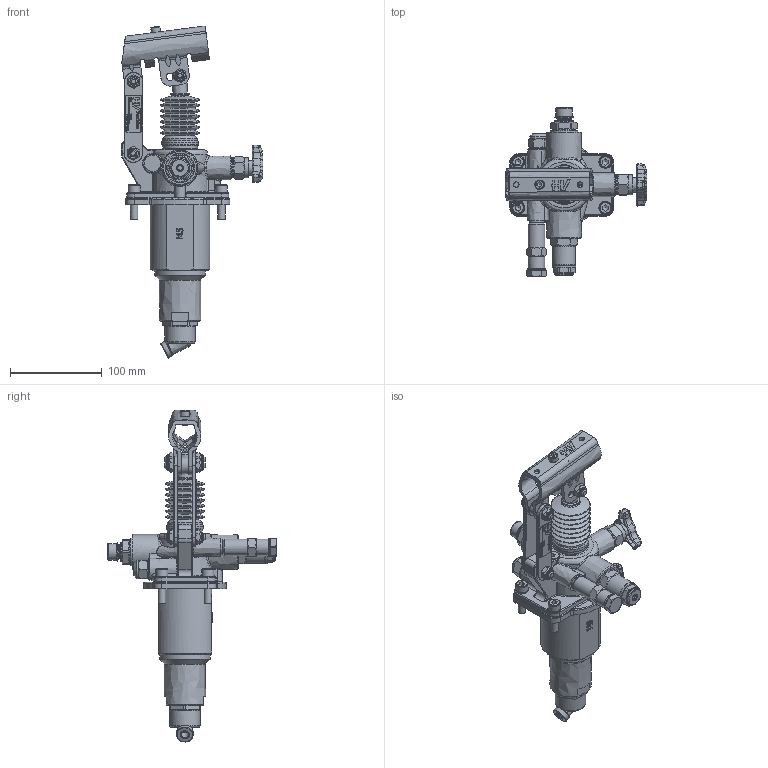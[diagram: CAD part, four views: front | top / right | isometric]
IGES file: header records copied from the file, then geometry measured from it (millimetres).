
Global section: file name: No Iges File Name specified; native system: Autodesk Inventor 2013; preprocessor: AutoDesk Inventor Iges Exporter R2013; author: christian.scardovi; date: 20240329.113944; units: millimetre
Bounding box: 154 x 183.5 x 361.27 mm (x, y, z)
Surface area: 189175.2 mm2
Topology: 3 solids, 5 shells, 1995 faces, 5039 edges, 3156 vertices
Faces by surface type: bspline 1995
